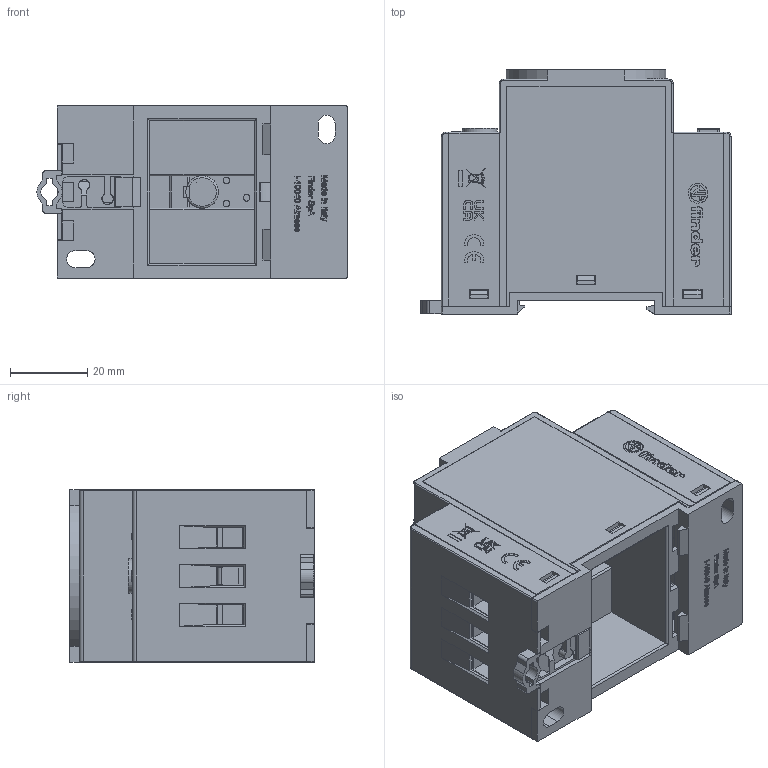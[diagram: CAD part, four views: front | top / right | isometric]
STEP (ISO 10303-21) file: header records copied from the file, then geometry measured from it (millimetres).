
FILE_DESCRIPTION(/* description */ ('Unknown'),/* implementation_level */ '2;1');
FILE_NAME(/* name */ '7U00 catalogo',/* time_stamp */ '2022-04-07T11:47:52+02:00',/* author */ ('Unknown'),/* organization */ ('Unknown'),/* preprocessor_version */ 'ST-DEVELOPER v16.7',/* originating_system */ 'DEX',/* authorisation */ $);
FILE_SCHEMA (('AUTOMOTIVE_DESIGN {1 0 10303 214 3 1 1}'));
Products named in the file (1): 7U00 catalogo
Bounding box: 80.24 x 63.3 x 45 mm (x, y, z)
Surface area: 39278.4 mm2 (no closed solid volume)
Topology: 0 solids, 27 shells, 1741 faces, 5185 edges, 3561 vertices
Faces by surface type: plane 1177, bspline 307, cylinder 210, cone 33, torus 13, sphere 1
Full cylindrical faces by diameter (mm): 1.7 x2, 2.428 x1, 2.5 x1, 2.671 x1, 2.95 x1, 3 x2, 4 x1, 5.212 x1, 5.3 x1, 5.5 x1, 6.1 x3, 6.9 x3, 7 x3, 8.2 x2, 8.4 x1, 9 x1
Entity records: 70420 total; most frequent: CARTESIAN_POINT 15527, ORIENTED_EDGE 9438, DIRECTION 7895, EDGE_CURVE 5140, LINE 3877, VECTOR 3877, VERTEX_POINT 3552, AXIS2_PLACEMENT_3D 2009
